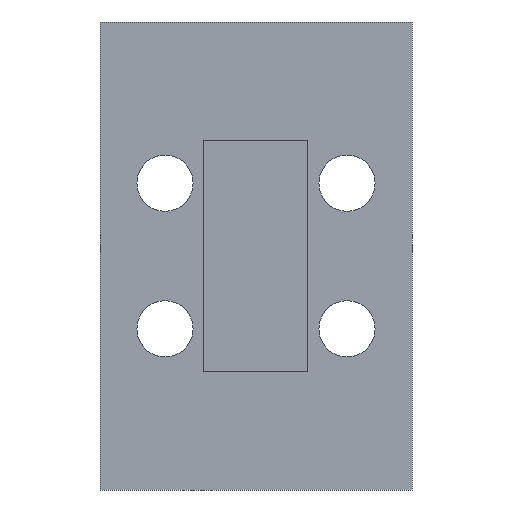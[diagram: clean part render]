
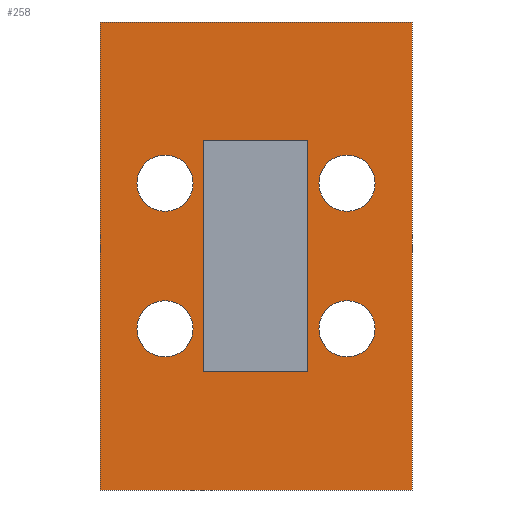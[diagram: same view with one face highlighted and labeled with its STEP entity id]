
A CAD part, front view. The second image highlights one B-rep face of the part: STEP entity #258.
In plain terms, the highlighted planar face has unit normal (0, -1, 0).
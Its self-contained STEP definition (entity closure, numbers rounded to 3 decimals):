
#15 = EDGE_CURVE ( 'NONE', #16, #17, #660, .T. ) ;
#16 = VERTEX_POINT ( 'NONE', #651 ) ;
#17 = VERTEX_POINT ( 'NONE', #650 ) ;
#130 = EDGE_CURVE ( 'NONE', #131, #132, #765, .T. ) ;
#131 = VERTEX_POINT ( 'NONE', #756 ) ;
#132 = VERTEX_POINT ( 'NONE', #755 ) ;
#136 = ORIENTED_EDGE ( 'NONE', *, *, #137, .T. ) ;
#137 = EDGE_CURVE ( 'NONE', #275, #274, #750, .T. ) ;
#138 = ORIENTED_EDGE ( 'NONE', *, *, #273, .T. ) ;
#139 = EDGE_LOOP ( 'NONE', ( #140, #142 ) ) ;
#140 = ORIENTED_EDGE ( 'NONE', *, *, #141, .T. ) ;
#141 = EDGE_CURVE ( 'NONE', #17, #16, #745, .T. ) ;
#142 = ORIENTED_EDGE ( 'NONE', *, *, #15, .T. ) ;
#143 = EDGE_LOOP ( 'NONE', ( #144, #145, #147, #148 ) ) ;
#144 = ORIENTED_EDGE ( 'NONE', *, *, #232, .F. ) ;
#145 = ORIENTED_EDGE ( 'NONE', *, *, #146, .F. ) ;
#146 = EDGE_CURVE ( 'NONE', #131, #230, #865, .T. ) ;
#147 = ORIENTED_EDGE ( 'NONE', *, *, #130, .T. ) ;
#148 = ORIENTED_EDGE ( 'NONE', *, *, #150, .F. ) ;
#149 = EDGE_LOOP ( 'NONE', ( #151, #154, #157, #159 ) ) ;
#150 = EDGE_CURVE ( 'NONE', #233, #132, #861, .T. ) ;
#151 = ORIENTED_EDGE ( 'NONE', *, *, #152, .T. ) ;
#152 = EDGE_CURVE ( 'NONE', #332, #153, #857, .T. ) ;
#153 = VERTEX_POINT ( 'NONE', #853 ) ;
#154 = ORIENTED_EDGE ( 'NONE', *, *, #155, .F. ) ;
#155 = EDGE_CURVE ( 'NONE', #156, #153, #852, .T. ) ;
#156 = VERTEX_POINT ( 'NONE', #848 ) ;
#157 = ORIENTED_EDGE ( 'NONE', *, *, #158, .F. ) ;
#158 = EDGE_CURVE ( 'NONE', #331, #156, #847, .T. ) ;
#159 = ORIENTED_EDGE ( 'NONE', *, *, #322, .T. ) ;
#230 = VERTEX_POINT ( 'NONE', #785 ) ;
#232 = EDGE_CURVE ( 'NONE', #230, #233, #784, .T. ) ;
#233 = VERTEX_POINT ( 'NONE', #780 ) ;
#258 = ADVANCED_FACE ( 'NONE', ( #708, #707, #706, #705, #704, #703 ), #702, .F. ) ;
#259 = EDGE_LOOP ( 'NONE', ( #260, #262 ) ) ;
#260 = ORIENTED_EDGE ( 'NONE', *, *, #261, .T. ) ;
#261 = EDGE_CURVE ( 'NONE', #340, #339, #700, .T. ) ;
#262 = ORIENTED_EDGE ( 'NONE', *, *, #338, .T. ) ;
#263 = EDGE_LOOP ( 'NONE', ( #284, #286 ) ) ;
#266 = EDGE_CURVE ( 'NONE', #267, #268, #686, .T. ) ;
#267 = VERTEX_POINT ( 'NONE', #681 ) ;
#268 = VERTEX_POINT ( 'NONE', #680 ) ;
#273 = EDGE_CURVE ( 'NONE', #274, #275, #989, .T. ) ;
#274 = VERTEX_POINT ( 'NONE', #966 ) ;
#275 = VERTEX_POINT ( 'NONE', #965 ) ;
#284 = ORIENTED_EDGE ( 'NONE', *, *, #285, .T. ) ;
#285 = EDGE_CURVE ( 'NONE', #268, #267, #960, .T. ) ;
#286 = ORIENTED_EDGE ( 'NONE', *, *, #266, .T. ) ;
#287 = EDGE_LOOP ( 'NONE', ( #136, #138 ) ) ;
#322 = EDGE_CURVE ( 'NONE', #331, #332, #1031, .T. ) ;
#331 = VERTEX_POINT ( 'NONE', #935 ) ;
#332 = VERTEX_POINT ( 'NONE', #934 ) ;
#338 = EDGE_CURVE ( 'NONE', #339, #340, #1432, .T. ) ;
#339 = VERTEX_POINT ( 'NONE', #1466 ) ;
#340 = VERTEX_POINT ( 'NONE', #1465 ) ;
#650 = CARTESIAN_POINT ( 'NONE',  ( -17.5, 5.8, -8.6 ) ) ;
#651 = CARTESIAN_POINT ( 'NONE',  ( -17.5, 5.8, -19.4 ) ) ;
#652 = DIRECTION ( 'NONE',  ( 0., 0., 1. ) ) ;
#653 = DIRECTION ( 'NONE',  ( 0., 1., 0. ) ) ;
#654 = CARTESIAN_POINT ( 'NONE',  ( -17.5, 5.8, -14. ) ) ;
#655 = AXIS2_PLACEMENT_3D ( 'NONE', #654, #653, #652 ) ;
#660 = CIRCLE ( 'NONE', #655, 5.4 ) ;
#680 = CARTESIAN_POINT ( 'NONE',  ( -17.5, 5.8, 19.4 ) ) ;
#681 = CARTESIAN_POINT ( 'NONE',  ( -17.5, 5.8, 8.6 ) ) ;
#682 = DIRECTION ( 'NONE',  ( 0., 0., 1. ) ) ;
#683 = DIRECTION ( 'NONE',  ( 0., 1., 0. ) ) ;
#684 = CARTESIAN_POINT ( 'NONE',  ( -17.5, 5.8, 14. ) ) ;
#685 = AXIS2_PLACEMENT_3D ( 'NONE', #684, #683, #682 ) ;
#686 = CIRCLE ( 'NONE', #685, 5.4 ) ;
#693 = DIRECTION ( 'NONE',  ( 0., 0., 1. ) ) ;
#694 = DIRECTION ( 'NONE',  ( 0., 1., 0. ) ) ;
#695 = CARTESIAN_POINT ( 'NONE',  ( 17.5, 5.8, 14. ) ) ;
#696 = AXIS2_PLACEMENT_3D ( 'NONE', #695, #694, #693 ) ;
#697 = DIRECTION ( 'NONE',  ( 0., 0., 1. ) ) ;
#698 = DIRECTION ( 'NONE',  ( 0., 1., 0. ) ) ;
#699 = AXIS2_PLACEMENT_3D ( 'NONE', #701, #698, #697 ) ;
#700 = CIRCLE ( 'NONE', #696, 5.4 ) ;
#701 = CARTESIAN_POINT ( 'NONE',  ( 10., 5.8, 45. ) ) ;
#702 = PLANE ( 'NONE',  #699 ) ;
#703 = FACE_OUTER_BOUND ( 'NONE', #149, .T. ) ;
#704 = FACE_BOUND ( 'NONE', #143, .T. ) ;
#705 = FACE_BOUND ( 'NONE', #139, .T. ) ;
#706 = FACE_BOUND ( 'NONE', #287, .T. ) ;
#707 = FACE_BOUND ( 'NONE', #263, .T. ) ;
#708 = FACE_BOUND ( 'NONE', #259, .T. ) ;
#744 = AXIS2_PLACEMENT_3D ( 'NONE', #868, #867, #866 ) ;
#745 = CIRCLE ( 'NONE', #744, 5.4 ) ;
#746 = DIRECTION ( 'NONE',  ( 0., 0., 1. ) ) ;
#747 = DIRECTION ( 'NONE',  ( 0., 1., 0. ) ) ;
#748 = CARTESIAN_POINT ( 'NONE',  ( 17.5, 5.8, -14. ) ) ;
#749 = AXIS2_PLACEMENT_3D ( 'NONE', #748, #747, #746 ) ;
#750 = CIRCLE ( 'NONE', #749, 5.4 ) ;
#755 = CARTESIAN_POINT ( 'NONE',  ( 10., 5.8, -22.25 ) ) ;
#756 = CARTESIAN_POINT ( 'NONE',  ( 10., 5.8, 22.25 ) ) ;
#757 = DIRECTION ( 'NONE',  ( 0., 0., -1. ) ) ;
#758 = VECTOR ( 'NONE', #757, 1000. ) ;
#759 = CARTESIAN_POINT ( 'NONE',  ( 10., 5.8, 45. ) ) ;
#765 = LINE ( 'NONE', #759, #758 ) ;
#780 = CARTESIAN_POINT ( 'NONE',  ( -10., 5.8, -22.25 ) ) ;
#781 = DIRECTION ( 'NONE',  ( 0., 0., -1. ) ) ;
#782 = VECTOR ( 'NONE', #781, 1000. ) ;
#783 = CARTESIAN_POINT ( 'NONE',  ( -10., 5.8, 45. ) ) ;
#784 = LINE ( 'NONE', #783, #782 ) ;
#785 = CARTESIAN_POINT ( 'NONE',  ( -10., 5.8, 22.25 ) ) ;
#844 = DIRECTION ( 'NONE',  ( 1., 0., 0. ) ) ;
#845 = VECTOR ( 'NONE', #844, 1000. ) ;
#846 = CARTESIAN_POINT ( 'NONE',  ( -30., 5.8, 45. ) ) ;
#847 = LINE ( 'NONE', #846, #845 ) ;
#848 = CARTESIAN_POINT ( 'NONE',  ( 30., 5.8, 45. ) ) ;
#849 = DIRECTION ( 'NONE',  ( 0., 0., -1. ) ) ;
#850 = VECTOR ( 'NONE', #849, 1000. ) ;
#851 = CARTESIAN_POINT ( 'NONE',  ( 30., 5.8, 45. ) ) ;
#852 = LINE ( 'NONE', #851, #850 ) ;
#853 = CARTESIAN_POINT ( 'NONE',  ( 30., 5.8, -45. ) ) ;
#854 = DIRECTION ( 'NONE',  ( 1., 0., 0. ) ) ;
#855 = VECTOR ( 'NONE', #854, 1000. ) ;
#856 = CARTESIAN_POINT ( 'NONE',  ( 10., 5.8, -45. ) ) ;
#857 = LINE ( 'NONE', #856, #855 ) ;
#858 = DIRECTION ( 'NONE',  ( 1., 0., 0. ) ) ;
#859 = VECTOR ( 'NONE', #858, 1000. ) ;
#860 = CARTESIAN_POINT ( 'NONE',  ( -30., 5.8, -22.25 ) ) ;
#861 = LINE ( 'NONE', #860, #859 ) ;
#862 = DIRECTION ( 'NONE',  ( -1., 0., 0. ) ) ;
#863 = VECTOR ( 'NONE', #862, 1000. ) ;
#864 = CARTESIAN_POINT ( 'NONE',  ( -30., 5.8, 22.25 ) ) ;
#865 = LINE ( 'NONE', #864, #863 ) ;
#866 = DIRECTION ( 'NONE',  ( 0., 0., 1. ) ) ;
#867 = DIRECTION ( 'NONE',  ( 0., 1., 0. ) ) ;
#868 = CARTESIAN_POINT ( 'NONE',  ( -17.5, 5.8, -14. ) ) ;
#934 = CARTESIAN_POINT ( 'NONE',  ( -30., 5.8, -45. ) ) ;
#935 = CARTESIAN_POINT ( 'NONE',  ( -30., 5.8, 45. ) ) ;
#945 = DIRECTION ( 'NONE',  ( 0., 0., 1. ) ) ;
#946 = DIRECTION ( 'NONE',  ( 0., 1., 0. ) ) ;
#947 = CARTESIAN_POINT ( 'NONE',  ( -17.5, 5.8, 14. ) ) ;
#948 = AXIS2_PLACEMENT_3D ( 'NONE', #947, #946, #945 ) ;
#957 = DIRECTION ( 'NONE',  ( 0., 0., 1. ) ) ;
#958 = DIRECTION ( 'NONE',  ( 0., 1., 0. ) ) ;
#959 = AXIS2_PLACEMENT_3D ( 'NONE', #988, #958, #957 ) ;
#960 = CIRCLE ( 'NONE', #948, 5.4 ) ;
#965 = CARTESIAN_POINT ( 'NONE',  ( 17.5, 5.8, -8.6 ) ) ;
#966 = CARTESIAN_POINT ( 'NONE',  ( 17.5, 5.8, -19.4 ) ) ;
#988 = CARTESIAN_POINT ( 'NONE',  ( 17.5, 5.8, -14. ) ) ;
#989 = CIRCLE ( 'NONE', #959, 5.4 ) ;
#1028 = DIRECTION ( 'NONE',  ( 0., 0., -1. ) ) ;
#1029 = VECTOR ( 'NONE', #1028, 1000. ) ;
#1030 = CARTESIAN_POINT ( 'NONE',  ( -30., 5.8, 45. ) ) ;
#1031 = LINE ( 'NONE', #1030, #1029 ) ;
#1431 = AXIS2_PLACEMENT_3D ( 'NONE', #1469, #1468, #1467 ) ;
#1432 = CIRCLE ( 'NONE', #1431, 5.4 ) ;
#1465 = CARTESIAN_POINT ( 'NONE',  ( 17.5, 5.8, 19.4 ) ) ;
#1466 = CARTESIAN_POINT ( 'NONE',  ( 17.5, 5.8, 8.6 ) ) ;
#1467 = DIRECTION ( 'NONE',  ( 0., 0., 1. ) ) ;
#1468 = DIRECTION ( 'NONE',  ( 0., 1., 0. ) ) ;
#1469 = CARTESIAN_POINT ( 'NONE',  ( 17.5, 5.8, 14. ) ) ;
